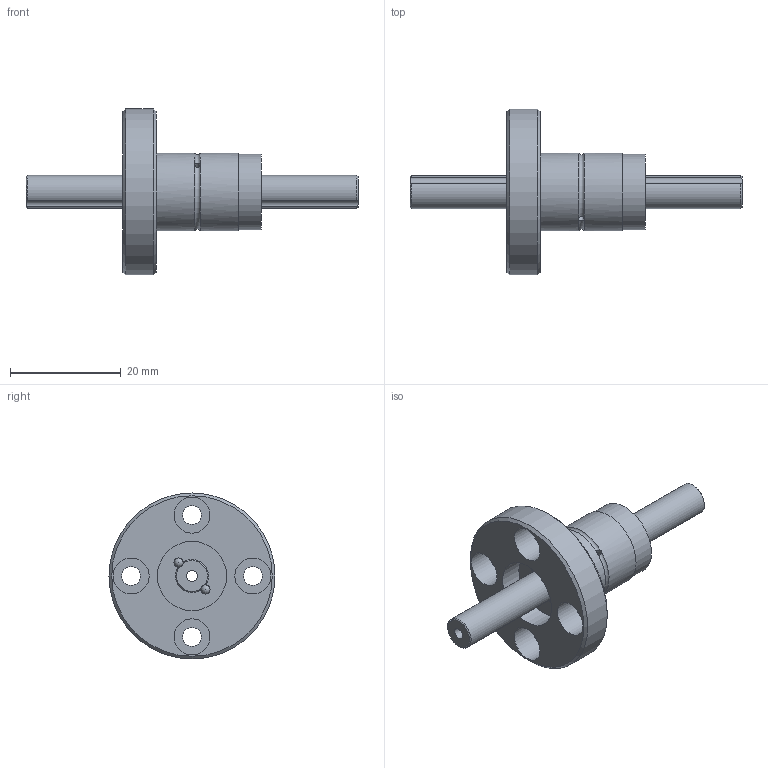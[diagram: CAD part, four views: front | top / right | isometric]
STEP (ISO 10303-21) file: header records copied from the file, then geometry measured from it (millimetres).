
FILE_DESCRIPTION(/* description */ ('Unknown'),/* implementation_level */ '2;1');
FILE_NAME(/* name */ 'TLF006-D1-60',/* time_stamp */ '2024-12-16T13:39:46+08:00',/* author */ ('Unknown'),/* organization */ ('Unknown'),/* preprocessor_version */ 'ST-DEVELOPER v18.102',/* originating_system */ 'Solid Edge',/* authorisation */ 'Unknown');
FILE_SCHEMA (('AUTOMOTIVE_DESIGN {1 0 10303 214 3 1 1}'));
Length unit declared in the file: millimetre
Products named in the file (3): TLF006-D1-60; TLF006; TLF006-D1-xxxxx
Assembly tree (2 placements, depth 2):
  TLF006-D1-60
    TLF006
    TLF006-D1-xxxxx
Bounding box: 60 x 30 x 30 mm (x, y, z)
Volume: 6753 mm3; surface area: 5396.7 mm2
Topology: 2 solids, 2 shells, 53 faces, 160 edges, 107 vertices
Faces by surface type: cylinder 24, plane 11, sphere 10, cone 6, torus 2
Full cylindrical faces by diameter (mm): 1 x2, 2 x1, 3.4 x4, 6.5 x4, 12.5 x1, 13.6 x1, 14 x2, 30 x1
Entity records: 1897 total; most frequent: CARTESIAN_POINT 652, DIRECTION 240, ORIENTED_EDGE 192, EDGE_LOOP 118, FACE_BOUND 118, AXIS2_PLACEMENT_3D 116, EDGE_CURVE 96, VERTEX_POINT 80
